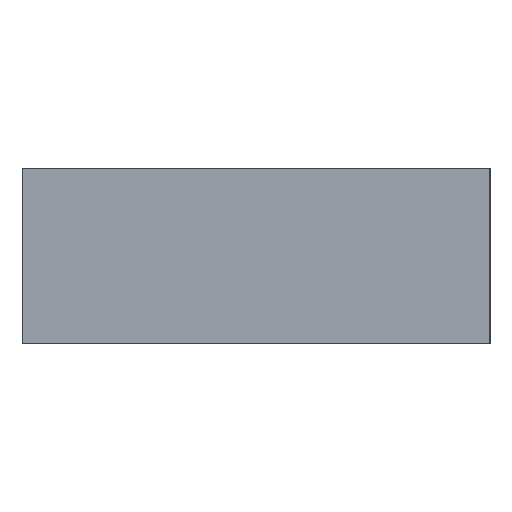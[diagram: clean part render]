
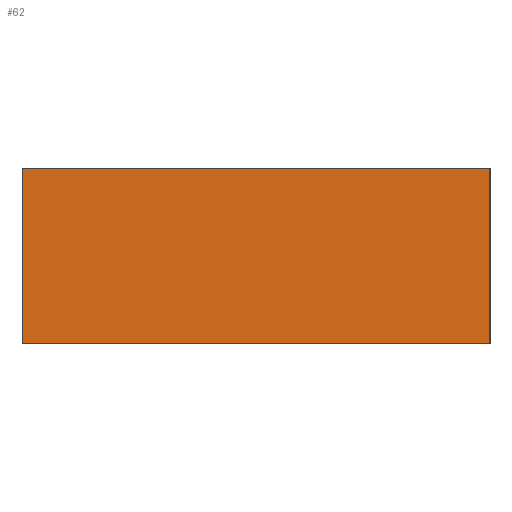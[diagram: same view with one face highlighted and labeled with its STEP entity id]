
A CAD part, left-side view. The second image highlights one B-rep face of the part: STEP entity #62.
In plain terms, the highlighted planar face has unit normal (-1, 0, 0).
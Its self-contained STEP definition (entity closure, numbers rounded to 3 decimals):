
#62 = ADVANCED_FACE( '', ( #123 ), #124, .F. );
#123 = FACE_OUTER_BOUND( '', #176, .T. );
#124 = PLANE( '', #177 );
#176 = EDGE_LOOP( '', ( #282, #283, #284, #285 ) );
#177 = AXIS2_PLACEMENT_3D( '', #286, #287, #288 );
#282 = ORIENTED_EDGE( '', *, *, #329, .T. );
#283 = ORIENTED_EDGE( '', *, *, #332, .F. );
#284 = ORIENTED_EDGE( '', *, *, #301, .F. );
#285 = ORIENTED_EDGE( '', *, *, #310, .T. );
#286 = CARTESIAN_POINT( '', ( -6., 0., 6. ) );
#287 = DIRECTION( '', ( 1., 0., 0. ) );
#288 = DIRECTION( '', ( 0., 0., -1. ) );
#301 = EDGE_CURVE( '', #347, #349, #350, .T. );
#310 = EDGE_CURVE( '', #347, #363, #365, .T. );
#329 = EDGE_CURVE( '', #363, #389, #391, .T. );
#332 = EDGE_CURVE( '', #349, #389, #394, .T. );
#347 = VERTEX_POINT( '', #413 );
#349 = VERTEX_POINT( '', #416 );
#350 = LINE( '', #417, #418 );
#363 = VERTEX_POINT( '', #436 );
#365 = LINE( '', #439, #440 );
#389 = VERTEX_POINT( '', #472 );
#391 = LINE( '', #475, #476 );
#394 = LINE( '', #479, #480 );
#413 = CARTESIAN_POINT( '', ( -6., 0., 6. ) );
#416 = CARTESIAN_POINT( '', ( -6., -32., 6. ) );
#417 = CARTESIAN_POINT( '', ( -6., 0., 6. ) );
#418 = VECTOR( '', #489, 1000. );
#436 = CARTESIAN_POINT( '', ( -6., 0., -6. ) );
#439 = CARTESIAN_POINT( '', ( -6., 0., 6. ) );
#440 = VECTOR( '', #499, 1000. );
#472 = CARTESIAN_POINT( '', ( -6., -32., -6. ) );
#475 = CARTESIAN_POINT( '', ( -6., 0., -6. ) );
#476 = VECTOR( '', #518, 1000. );
#479 = CARTESIAN_POINT( '', ( -6., -32., 6. ) );
#480 = VECTOR( '', #519, 1000. );
#489 = DIRECTION( '', ( 0., -1., 0. ) );
#499 = DIRECTION( '', ( 0., 0., -1. ) );
#518 = DIRECTION( '', ( 0., -1., 0. ) );
#519 = DIRECTION( '', ( 0., 0., -1. ) );
